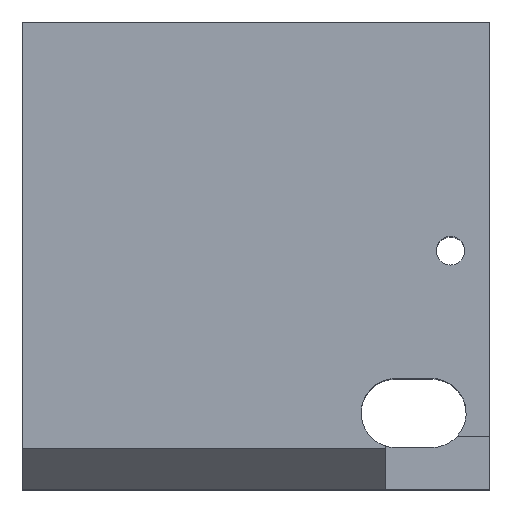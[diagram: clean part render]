
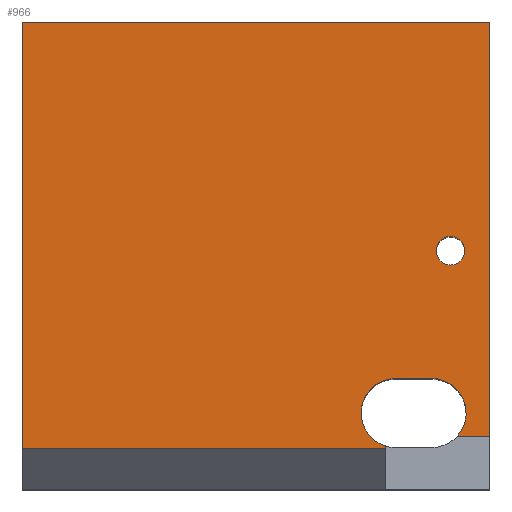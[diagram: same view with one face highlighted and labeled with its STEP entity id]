
A CAD part, top view. The second image highlights one B-rep face of the part: STEP entity #966.
In plain terms, the highlighted planar face has unit normal (0, 0, 1).
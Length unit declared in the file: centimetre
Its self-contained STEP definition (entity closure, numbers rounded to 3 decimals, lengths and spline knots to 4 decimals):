
#10 = ORIENTED_EDGE ( 'NONE', *, *, #934, .T. ) ;
#50 = CARTESIAN_POINT ( 'NONE',  ( 798.5653, 163.8432, 1000. ) ) ;
#59 = DIRECTION ( 'NONE',  ( 0., 0., -1. ) ) ;
#76 = EDGE_CURVE ( 'NONE', #134, #1096, #1279, .T. ) ;
#78 = EDGE_CURVE ( 'NONE', #803, #1096, #607, .T. ) ;
#114 = ORIENTED_EDGE ( 'NONE', *, *, #78, .F. ) ;
#117 = EDGE_CURVE ( 'NONE', #1534, #733, #1665, .T. ) ;
#124 = CARTESIAN_POINT ( 'NONE',  ( 930.2643, 114.3149, 1000. ) ) ;
#134 = VERTEX_POINT ( 'NONE', #895 ) ;
#188 = EDGE_CURVE ( 'NONE', #803, #786, #412, .T. ) ;
#194 = CARTESIAN_POINT ( 'NONE',  ( 0., 1000., 1000. ) ) ;
#230 = CARTESIAN_POINT ( 'NONE',  ( 776.359, 0., 1000. ) ) ;
#243 = VECTOR ( 'NONE', #609, 100. ) ;
#254 = DIRECTION ( 'NONE',  ( 1., 0., 0. ) ) ;
#269 = CIRCLE ( 'NONE', #1311, 30.5931 ) ;
#270 = DIRECTION ( 'NONE',  ( 1., 0., 0. ) ) ;
#276 = EDGE_CURVE ( 'NONE', #301, #733, #1501, .T. ) ;
#301 = VERTEX_POINT ( 'NONE', #1320 ) ;
#305 = LINE ( 'NONE', #556, #1470 ) ;
#334 = LINE ( 'NONE', #194, #243 ) ;
#371 = DIRECTION ( 'NONE',  ( -1., 0., 0. ) ) ;
#399 = ORIENTED_EDGE ( 'NONE', *, *, #76, .T. ) ;
#409 = LINE ( 'NONE', #1592, #1524 ) ;
#412 = CIRCLE ( 'NONE', #1425, 73.7939 ) ;
#431 = DIRECTION ( 'NONE',  ( -1., 0., 0. ) ) ;
#450 = CARTESIAN_POINT ( 'NONE',  ( 798.5653, 237.6371, 1000. ) ) ;
#458 = CARTESIAN_POINT ( 'NONE',  ( 915.8485, 510.7719, 1000. ) ) ;
#485 = CARTESIAN_POINT ( 'NONE',  ( 798.5653, 163.8432, 1000. ) ) ;
#491 = ORIENTED_EDGE ( 'NONE', *, *, #1190, .T. ) ;
#515 = DIRECTION ( 'NONE',  ( 0., 1., 0. ) ) ;
#530 = ORIENTED_EDGE ( 'NONE', *, *, #117, .F. ) ;
#556 = CARTESIAN_POINT ( 'NONE',  ( 0., 1000., 1000. ) ) ;
#559 = FACE_BOUND ( 'NONE', #587, .T. ) ;
#584 = DIRECTION ( 'NONE',  ( 1., 0., 0. ) ) ;
#587 = EDGE_LOOP ( 'NONE', ( #10, #491 ) ) ;
#594 = VERTEX_POINT ( 'NONE', #1268 ) ;
#602 = VECTOR ( 'NONE', #371, 100. ) ;
#607 = LINE ( 'NONE', #230, #1511 ) ;
#609 = DIRECTION ( 'NONE',  ( 0., -1., 0. ) ) ;
#641 = ORIENTED_EDGE ( 'NONE', *, *, #276, .T. ) ;
#684 = ORIENTED_EDGE ( 'NONE', *, *, #949, .T. ) ;
#688 = FACE_OUTER_BOUND ( 'NONE', #866, .T. ) ;
#695 = ORIENTED_EDGE ( 'NONE', *, *, #1477, .T. ) ;
#702 = DIRECTION ( 'NONE',  ( 0., 0., 1. ) ) ;
#716 = VECTOR ( 'NONE', #1500, 100. ) ;
#725 = AXIS2_PLACEMENT_3D ( 'NONE', #50, #1219, #1608 ) ;
#733 = VERTEX_POINT ( 'NONE', #124 ) ;
#749 = DIRECTION ( 'NONE',  ( -1., 0., 0. ) ) ;
#756 = CARTESIAN_POINT ( 'NONE',  ( 776.359, 114.3149, 1000. ) ) ;
#786 = VERTEX_POINT ( 'NONE', #1317 ) ;
#803 = VERTEX_POINT ( 'NONE', #1302 ) ;
#860 = PLANE ( 'NONE',  #1002 ) ;
#865 = DIRECTION ( 'NONE',  ( 1., 0., 0. ) ) ;
#866 = EDGE_LOOP ( 'NONE', ( #114, #1218, #684, #1461, #641, #530, #1193, #1475, #695, #399 ) ) ;
#886 = DIRECTION ( 'NONE',  ( 0., 0., -1. ) ) ;
#895 = CARTESIAN_POINT ( 'NONE',  ( 0., 88.7954, 1000. ) ) ;
#934 = EDGE_CURVE ( 'NONE', #1364, #996, #269, .T. ) ;
#937 = AXIS2_PLACEMENT_3D ( 'NONE', #943, #1450, #270 ) ;
#943 = CARTESIAN_POINT ( 'NONE',  ( 875.5606, 163.8432, 1000. ) ) ;
#949 = EDGE_CURVE ( 'NONE', #786, #1011, #1528, .T. ) ;
#966 = ADVANCED_FACE ( 'NONE', ( #688, #559 ), #860, .T. ) ;
#977 = CARTESIAN_POINT ( 'NONE',  ( 885.2554, 510.7719, 1000. ) ) ;
#978 = CARTESIAN_POINT ( 'NONE',  ( 1000., 88.7954, 1000. ) ) ;
#979 = CARTESIAN_POINT ( 'NONE',  ( 0., 0., 1000. ) ) ;
#996 = VERTEX_POINT ( 'NONE', #1236 ) ;
#1002 = AXIS2_PLACEMENT_3D ( 'NONE', #979, #702, #584 ) ;
#1006 = CARTESIAN_POINT ( 'NONE',  ( 776.359, 88.7954, 1000. ) ) ;
#1011 = VERTEX_POINT ( 'NONE', #450 ) ;
#1088 = EDGE_CURVE ( 'NONE', #1011, #301, #1419, .T. ) ;
#1096 = VERTEX_POINT ( 'NONE', #1006 ) ;
#1144 = VECTOR ( 'NONE', #865, 100. ) ;
#1176 = AXIS2_PLACEMENT_3D ( 'NONE', #1541, #886, #749 ) ;
#1190 = EDGE_CURVE ( 'NONE', #996, #1364, #1609, .T. ) ;
#1193 = ORIENTED_EDGE ( 'NONE', *, *, #1237, .T. ) ;
#1218 = ORIENTED_EDGE ( 'NONE', *, *, #188, .T. ) ;
#1219 = DIRECTION ( 'NONE',  ( 0., 0., -1. ) ) ;
#1228 = DIRECTION ( 'NONE',  ( -1., 0., 0. ) ) ;
#1236 = CARTESIAN_POINT ( 'NONE',  ( 946.4415, 510.7719, 1000. ) ) ;
#1237 = EDGE_CURVE ( 'NONE', #1534, #1520, #409, .T. ) ;
#1260 = CARTESIAN_POINT ( 'NONE',  ( 875.5606, 237.6371, 1000. ) ) ;
#1268 = CARTESIAN_POINT ( 'NONE',  ( 0., 1000., 1000. ) ) ;
#1279 = LINE ( 'NONE', #978, #716 ) ;
#1282 = DIRECTION ( 'NONE',  ( 0., 0., -1. ) ) ;
#1302 = CARTESIAN_POINT ( 'NONE',  ( 776.359, 93.4697, 1000. ) ) ;
#1311 = AXIS2_PLACEMENT_3D ( 'NONE', #458, #59, #1228 ) ;
#1317 = CARTESIAN_POINT ( 'NONE',  ( 724.7714, 163.8432, 1000. ) ) ;
#1320 = CARTESIAN_POINT ( 'NONE',  ( 875.5606, 237.6371, 1000. ) ) ;
#1358 = EDGE_CURVE ( 'NONE', #1520, #594, #305, .T. ) ;
#1364 = VERTEX_POINT ( 'NONE', #977 ) ;
#1394 = DIRECTION ( 'NONE',  ( 0., -1., 0. ) ) ;
#1419 = LINE ( 'NONE', #1260, #1144 ) ;
#1425 = AXIS2_PLACEMENT_3D ( 'NONE', #485, #1282, #254 ) ;
#1450 = DIRECTION ( 'NONE',  ( 0., 0., -1. ) ) ;
#1461 = ORIENTED_EDGE ( 'NONE', *, *, #1088, .T. ) ;
#1470 = VECTOR ( 'NONE', #431, 100. ) ;
#1475 = ORIENTED_EDGE ( 'NONE', *, *, #1358, .T. ) ;
#1477 = EDGE_CURVE ( 'NONE', #594, #134, #334, .T. ) ;
#1500 = DIRECTION ( 'NONE',  ( 1., 0., 0. ) ) ;
#1501 = CIRCLE ( 'NONE', #937, 73.7939 ) ;
#1506 = CARTESIAN_POINT ( 'NONE',  ( 1000., 114.3149, 1000. ) ) ;
#1511 = VECTOR ( 'NONE', #1394, 100. ) ;
#1520 = VERTEX_POINT ( 'NONE', #1647 ) ;
#1524 = VECTOR ( 'NONE', #515, 100. ) ;
#1528 = CIRCLE ( 'NONE', #725, 73.7939 ) ;
#1534 = VERTEX_POINT ( 'NONE', #1506 ) ;
#1541 = CARTESIAN_POINT ( 'NONE',  ( 915.8485, 510.7719, 1000. ) ) ;
#1592 = CARTESIAN_POINT ( 'NONE',  ( 1000., 1000., 1000. ) ) ;
#1608 = DIRECTION ( 'NONE',  ( 1., 0., 0. ) ) ;
#1609 = CIRCLE ( 'NONE', #1176, 30.5931 ) ;
#1647 = CARTESIAN_POINT ( 'NONE',  ( 1000., 1000., 1000. ) ) ;
#1665 = LINE ( 'NONE', #756, #602 ) ;
